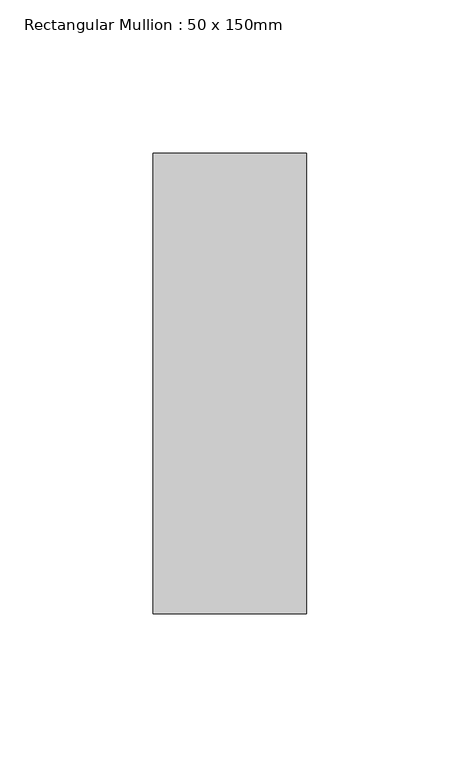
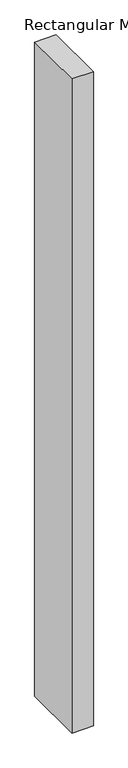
"""IFC4 building model written with IfcOpenShell, lengths in millimetres: member geometry, Rectangular Mullion : 50 x 150mm."""

from ifc_helpers import new_model, si_unit, frame, origin, place, context, project, spatial, polyline, outline, extrude, source, transform, mapped, element, save


def rectangular_mullion_50_x_150mm_84e0e8e7(model_context):
    return source(origin(), model_context, "Body", "SweptSolid", [
        extrude(outline(polyline([(0.0, 75.0), (0.0, -75.0), (-50.0, -75.0), (-50.0, 75.0), (0.0, 75.0)])), frame((0.0, 0.0, -1611.8882818), z_axis=(0.0, 0.0, 1.0), x_axis=(1.0, 0.0, 0.0)), (0.0, 0.0, 1.0), 1611.8882818),
    ])


if __name__ == "__main__":
    model = new_model("IFC4")
    model_context = context("Model", 3, world=origin())
    ifc_project = project(units=[si_unit("LENGTHUNIT", "METRE", prefix="MILLI")], contexts=[model_context])
    site = spatial("IfcSite", under=ifc_project)
    building = spatial("IfcBuilding", under=site)
    placement = place(None, origin())
    rectangular_mullion_50_x_150mm_shape = rectangular_mullion_50_x_150mm_84e0e8e7(model_context)
    element("IfcMember", 1, ObjectType="Rectangular Mullion : 50 x 150mm", at=placement, inside=building, context=model_context, shape_type="MappedRepresentation", body=[
        mapped(rectangular_mullion_50_x_150mm_shape, transform((0.0, 0.0, 0.0), x_axis=(1.0, 0.0, 0.0), y_axis=(0.0, 1.0, 0.0), z_axis=(0.0, 0.0, 1.0))),
    ])
    save(model, "model.ifc")
